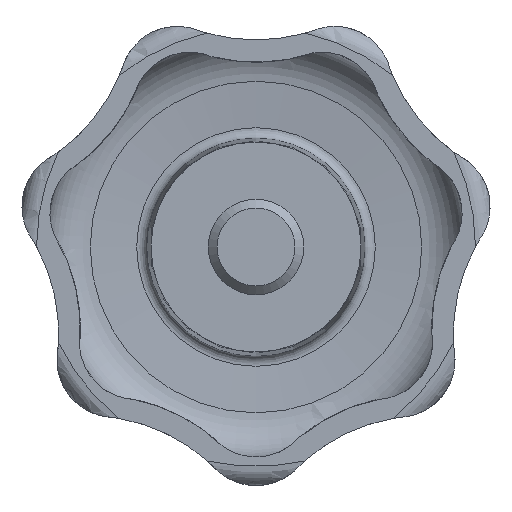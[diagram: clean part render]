
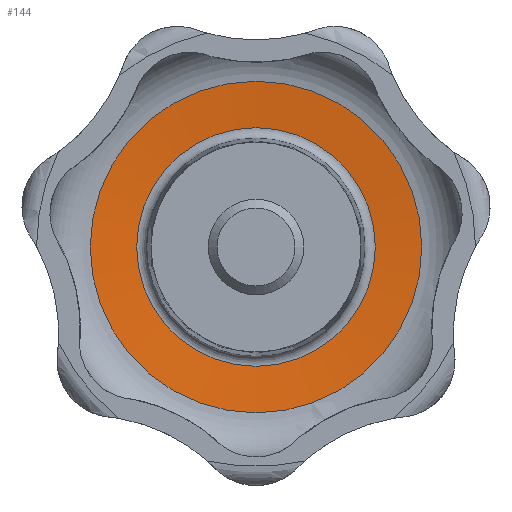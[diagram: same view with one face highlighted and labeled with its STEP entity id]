
A CAD part, front view. The second image highlights one B-rep face of the part: STEP entity #144.
In plain terms, the highlighted conical face has half-angle 85 degrees and reference radius 17.374 mm.
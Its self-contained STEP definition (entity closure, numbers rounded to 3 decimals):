
#144 = ADVANCED_FACE( '', ( #297, #298 ), #299, .F. );
#297 = FACE_BOUND( '', #455, .T. );
#298 = FACE_OUTER_BOUND( '', #456, .T. );
#299 = CONICAL_SURFACE( '', #457, 17.374, 1.484 );
#455 = EDGE_LOOP( '', ( #1050 ) );
#456 = EDGE_LOOP( '', ( #1051 ) );
#457 = AXIS2_PLACEMENT_3D( '', #1052, #1053, #1054 );
#1050 = ORIENTED_EDGE( '', *, *, #1280, .F. );
#1051 = ORIENTED_EDGE( '', *, *, #1165, .T. );
#1052 = CARTESIAN_POINT( '', ( 0., 24.481, 0. ) );
#1053 = DIRECTION( '', ( 0., -1., 0. ) );
#1054 = DIRECTION( '', ( 0., 0., -1. ) );
#1165 = EDGE_CURVE( '', #1437, #1437, #1438, .T. );
#1280 = EDGE_CURVE( '', #1610, #1610, #1611, .T. );
#1437 = VERTEX_POINT( '', #2221 );
#1438 = CIRCLE( '', #2222, 17.374 );
#1610 = VERTEX_POINT( '', #3001 );
#1611 = CIRCLE( '', #3002, 12.505 );
#2221 = CARTESIAN_POINT( '', ( 0., 24.481, -17.374 ) );
#2222 = AXIS2_PLACEMENT_3D( '', #3084, #3085, #3086 );
#3001 = CARTESIAN_POINT( '', ( 0., 24.907, -12.505 ) );
#3002 = AXIS2_PLACEMENT_3D( '', #3255, #3256, #3257 );
#3084 = CARTESIAN_POINT( '', ( 0., 24.481, 0. ) );
#3085 = DIRECTION( '', ( 0., -1., 0. ) );
#3086 = DIRECTION( '', ( 0., 0., -1. ) );
#3255 = CARTESIAN_POINT( '', ( 0., 24.907, 0. ) );
#3256 = DIRECTION( '', ( 0., -1., 0. ) );
#3257 = DIRECTION( '', ( 0., 0., -1. ) );
